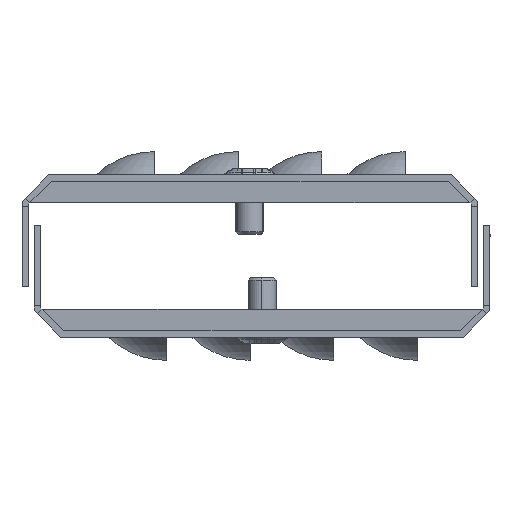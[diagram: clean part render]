
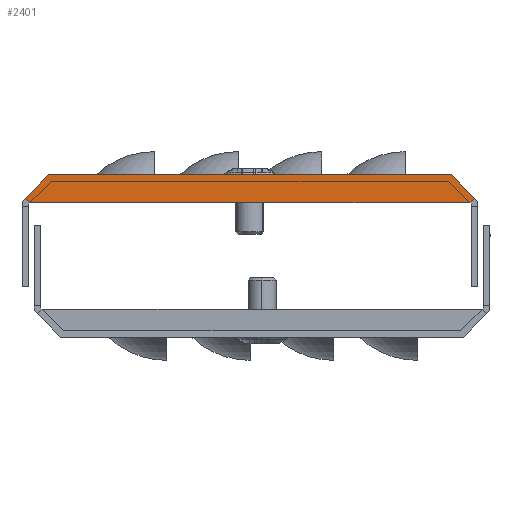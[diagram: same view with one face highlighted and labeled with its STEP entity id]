
A CAD part, left-side view. The second image highlights one B-rep face of the part: STEP entity #2401.
In plain terms, the highlighted planar face has unit normal (-1, 0, 0).
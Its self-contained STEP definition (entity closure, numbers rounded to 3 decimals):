
#43 = FACE_OUTER_BOUND ( 'NONE', #4280, .T. ) ;
#146 = DIRECTION ( 'NONE',  ( 1., 0., 0. ) ) ;
#161 = EDGE_CURVE ( 'NONE', #2980, #18189, #3583, .T. ) ;
#610 = LINE ( 'NONE', #7962, #3754 ) ;
#667 = ORIENTED_EDGE ( 'NONE', *, *, #10895, .T. ) ;
#711 = CARTESIAN_POINT ( 'NONE',  ( -995., -92.356, 0. ) ) ;
#921 = VERTEX_POINT ( 'NONE', #10746 ) ;
#1855 = ORIENTED_EDGE ( 'NONE', *, *, #161, .T. ) ;
#2285 = VERTEX_POINT ( 'NONE', #9379 ) ;
#2401 = ADVANCED_FACE ( 'NONE', ( #43 ), #7206, .F. ) ;
#2424 = EDGE_CURVE ( 'NONE', #18189, #11650, #16959, .T. ) ;
#2815 = CARTESIAN_POINT ( 'NONE',  ( -995., -96.249, -6.037 ) ) ;
#2980 = VERTEX_POINT ( 'NONE', #10275 ) ;
#3240 = EDGE_CURVE ( 'NONE', #3627, #17025, #16106, .T. ) ;
#3583 = LINE ( 'NONE', #9302, #17997 ) ;
#3627 = VERTEX_POINT ( 'NONE', #9782 ) ;
#3754 = VECTOR ( 'NONE', #10398, 1000. ) ;
#3916 = ORIENTED_EDGE ( 'NONE', *, *, #7354, .T. ) ;
#4280 = EDGE_LOOP ( 'NONE', ( #9203, #15111, #1855, #14638, #667, #10741, #3916, #6059 ) ) ;
#4298 = CARTESIAN_POINT ( 'NONE',  ( -995., -6.744, -2.4 ) ) ;
#4988 = LINE ( 'NONE', #18010, #8946 ) ;
#5137 = VECTOR ( 'NONE', #13083, 1000. ) ;
#5163 = AXIS2_PLACEMENT_3D ( 'NONE', #4298, #146, #15456 ) ;
#5706 = CARTESIAN_POINT ( 'NONE',  ( -995., -5.75, 0. ) ) ;
#6059 = ORIENTED_EDGE ( 'NONE', *, *, #11308, .T. ) ;
#6356 = DIRECTION ( 'NONE',  ( 0., 0.707, 0.707 ) ) ;
#6925 = CARTESIAN_POINT ( 'NONE',  ( -995., -96.413, -6.037 ) ) ;
#7206 = PLANE ( 'NONE',  #5163 ) ;
#7354 = EDGE_CURVE ( 'NONE', #17025, #10418, #4988, .T. ) ;
#7962 = CARTESIAN_POINT ( 'NONE',  ( -995., -0.703, -5.047 ) ) ;
#8702 = DIRECTION ( 'NONE',  ( 0., -1., 0. ) ) ;
#8946 = VECTOR ( 'NONE', #12199, 1000. ) ;
#9203 = ORIENTED_EDGE ( 'NONE', *, *, #17078, .T. ) ;
#9302 = CARTESIAN_POINT ( 'NONE',  ( -995., -49.053, -6.037 ) ) ;
#9379 = CARTESIAN_POINT ( 'NONE',  ( -995., -1.693, -6.037 ) ) ;
#9782 = CARTESIAN_POINT ( 'NONE',  ( -995., -97.403, -5.047 ) ) ;
#10129 = CARTESIAN_POINT ( 'NONE',  ( -995., -96.413, -6.037 ) ) ;
#10149 = DIRECTION ( 'NONE',  ( 0., 0.707, -0.707 ) ) ;
#10275 = CARTESIAN_POINT ( 'NONE',  ( -995., -1.857, -6.037 ) ) ;
#10398 = DIRECTION ( 'NONE',  ( 0., -0.707, -0.707 ) ) ;
#10418 = VERTEX_POINT ( 'NONE', #5706 ) ;
#10520 = DIRECTION ( 'NONE',  ( 0., -1., 0. ) ) ;
#10595 = VECTOR ( 'NONE', #6356, 1000. ) ;
#10741 = ORIENTED_EDGE ( 'NONE', *, *, #3240, .T. ) ;
#10746 = CARTESIAN_POINT ( 'NONE',  ( -995., -0.703, -5.047 ) ) ;
#10895 = EDGE_CURVE ( 'NONE', #11650, #3627, #17399, .T. ) ;
#11231 = DIRECTION ( 'NONE',  ( 0., -1., 0. ) ) ;
#11308 = EDGE_CURVE ( 'NONE', #10418, #921, #11445, .T. ) ;
#11445 = LINE ( 'NONE', #14345, #13804 ) ;
#11650 = VERTEX_POINT ( 'NONE', #10129 ) ;
#12199 = DIRECTION ( 'NONE',  ( 0., 1., 0. ) ) ;
#12249 = CARTESIAN_POINT ( 'NONE',  ( -995., -92.356, 0. ) ) ;
#12420 = VECTOR ( 'NONE', #11231, 1000. ) ;
#13083 = DIRECTION ( 'NONE',  ( 0., -0.707, 0.707 ) ) ;
#13804 = VECTOR ( 'NONE', #10149, 1000. ) ;
#14345 = CARTESIAN_POINT ( 'NONE',  ( -995., -5.75, 0. ) ) ;
#14638 = ORIENTED_EDGE ( 'NONE', *, *, #2424, .T. ) ;
#15111 = ORIENTED_EDGE ( 'NONE', *, *, #16795, .T. ) ;
#15186 = LINE ( 'NONE', #18093, #12420 ) ;
#15456 = DIRECTION ( 'NONE',  ( 0., -1., 0. ) ) ;
#15898 = CARTESIAN_POINT ( 'NONE',  ( -995., -96.413, -6.037 ) ) ;
#16106 = LINE ( 'NONE', #12249, #10595 ) ;
#16795 = EDGE_CURVE ( 'NONE', #2285, #2980, #15186, .T. ) ;
#16959 = LINE ( 'NONE', #6925, #17141 ) ;
#17025 = VERTEX_POINT ( 'NONE', #711 ) ;
#17078 = EDGE_CURVE ( 'NONE', #921, #2285, #610, .T. ) ;
#17141 = VECTOR ( 'NONE', #8702, 1000. ) ;
#17399 = LINE ( 'NONE', #15898, #5137 ) ;
#17997 = VECTOR ( 'NONE', #10520, 1000. ) ;
#18010 = CARTESIAN_POINT ( 'NONE',  ( -995., -92.356, 0. ) ) ;
#18093 = CARTESIAN_POINT ( 'NONE',  ( -995., -1.693, -6.037 ) ) ;
#18189 = VERTEX_POINT ( 'NONE', #2815 ) ;
